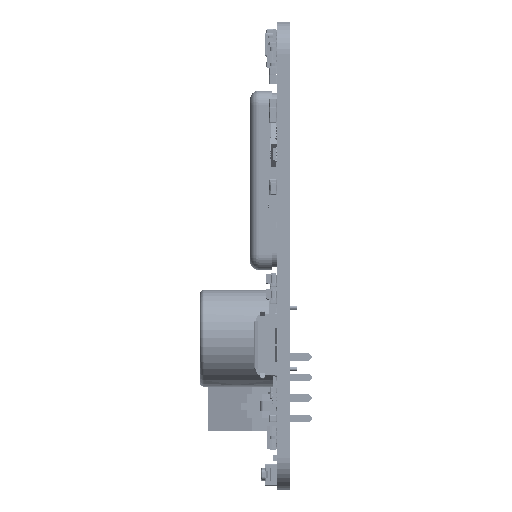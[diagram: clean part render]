
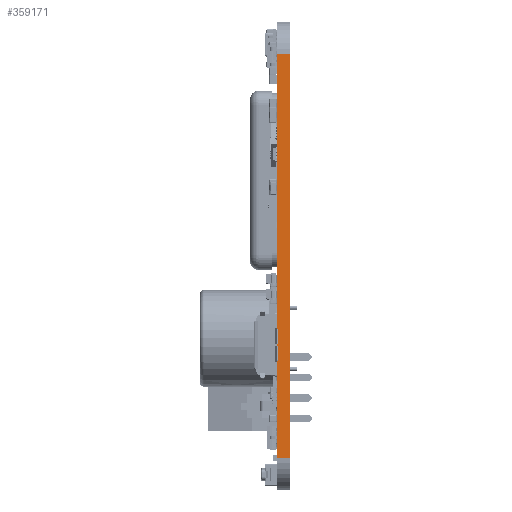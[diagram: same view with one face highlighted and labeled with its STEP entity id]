
A CAD part, left-side view. The second image highlights one B-rep face of the part: STEP entity #359171.
In plain terms, the highlighted planar face has unit normal (-1, 0, 0).
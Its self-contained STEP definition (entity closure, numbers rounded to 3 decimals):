
#118480 = CARTESIAN_POINT ( 'NONE',  ( 100., 0., -128.165 ) ) ;
#118619 = CARTESIAN_POINT ( 'NONE',  ( 100., 0., -96. ) ) ;
#118811 = CARTESIAN_POINT ( 'NONE',  ( 100., 0., -146. ) ) ;
#120145 = CARTESIAN_POINT ( 'NONE',  ( 100., -1.6, -146. ) ) ;
#120299 = CARTESIAN_POINT ( 'NONE',  ( 100., -1.6, -96. ) ) ;
#157326 = LINE ( 'NONE', #165116, #157391 ) ;
#157391 = VECTOR ( 'NONE', #165200, 1000. ) ;
#158062 = VECTOR ( 'NONE', #165843, 1000. ) ;
#158194 = LINE ( 'NONE', #165876, #158062 ) ;
#165116 = CARTESIAN_POINT ( 'NONE',  ( 100., 0., -146. ) ) ;
#165200 = DIRECTION ( 'NONE',  ( 0., 0., 1. ) ) ;
#165843 = DIRECTION ( 'NONE',  ( 0., 0., 1. ) ) ;
#165876 = CARTESIAN_POINT ( 'NONE',  ( 100., 0., -146. ) ) ;
#221102 = AXIS2_PLACEMENT_3D ( 'NONE', #280981, #281158, #281134 ) ;
#274045 = FACE_OUTER_BOUND ( 'NONE', #470606, .T. ) ;
#280981 = CARTESIAN_POINT ( 'NONE',  ( 100., -1.6, -146. ) ) ;
#281134 = DIRECTION ( 'NONE',  ( 0., 0., 1. ) ) ;
#281158 = DIRECTION ( 'NONE',  ( -1., 0., 0. ) ) ;
#281182 = PLANE ( 'NONE',  #221102 ) ;
#317349 = CARTESIAN_POINT ( 'NONE',  ( 100., 0., -135.86 ) ) ;
#359171 = ADVANCED_FACE ( 'NONE', ( #274045 ), #281182, .T. ) ;
#396130 = CARTESIAN_POINT ( 'NONE',  ( 100., -1.6, -146. ) ) ;
#396163 = DIRECTION ( 'NONE',  ( 0., 1., 0. ) ) ;
#396185 = DIRECTION ( 'NONE',  ( 0., 0., 1. ) ) ;
#396206 = CARTESIAN_POINT ( 'NONE',  ( 100., -1.6, -146. ) ) ;
#396235 = DIRECTION ( 'NONE',  ( 0., 1., 0. ) ) ;
#396281 = CARTESIAN_POINT ( 'NONE',  ( 100., -1.6, -96. ) ) ;
#396369 = DIRECTION ( 'NONE',  ( 0., 0., 1. ) ) ;
#396381 = CARTESIAN_POINT ( 'NONE',  ( 100., 0., -146. ) ) ;
#401936 = LINE ( 'NONE', #396281, #402409 ) ;
#401988 = VECTOR ( 'NONE', #396163, 1000. ) ;
#402085 = VECTOR ( 'NONE', #396185, 1000. ) ;
#402131 = LINE ( 'NONE', #396206, #402085 ) ;
#402207 = LINE ( 'NONE', #396130, #401988 ) ;
#402382 = VECTOR ( 'NONE', #396369, 1000. ) ;
#402409 = VECTOR ( 'NONE', #396235, 1000. ) ;
#402498 = LINE ( 'NONE', #396381, #402382 ) ;
#408648 = ORIENTED_EDGE ( 'NONE', *, *, #578248, .T. ) ;
#408649 = ORIENTED_EDGE ( 'NONE', *, *, #578291, .F. ) ;
#408661 = ORIENTED_EDGE ( 'NONE', *, *, #424419, .F. ) ;
#408683 = ORIENTED_EDGE ( 'NONE', *, *, #578199, .T. ) ;
#408697 = ORIENTED_EDGE ( 'NONE', *, *, #424664, .F. ) ;
#408699 = ORIENTED_EDGE ( 'NONE', *, *, #578226, .F. ) ;
#415331 = VERTEX_POINT ( 'NONE', #118480 ) ;
#415360 = VERTEX_POINT ( 'NONE', #118619 ) ;
#415593 = VERTEX_POINT ( 'NONE', #118811 ) ;
#417589 = VERTEX_POINT ( 'NONE', #120145 ) ;
#417685 = VERTEX_POINT ( 'NONE', #120299 ) ;
#424419 = EDGE_CURVE ( 'NONE', #415593, #570921, #157326, .T. ) ;
#424664 = EDGE_CURVE ( 'NONE', #415331, #415360, #158194, .T. ) ;
#470606 = EDGE_LOOP ( 'NONE', ( #408661, #408699, #408683, #408648, #408697, #408649 ) ) ;
#570921 = VERTEX_POINT ( 'NONE', #317349 ) ;
#578199 = EDGE_CURVE ( 'NONE', #417589, #417685, #402131, .T. ) ;
#578226 = EDGE_CURVE ( 'NONE', #417589, #415593, #402207, .T. ) ;
#578248 = EDGE_CURVE ( 'NONE', #417685, #415360, #401936, .T. ) ;
#578291 = EDGE_CURVE ( 'NONE', #570921, #415331, #402498, .T. ) ;
